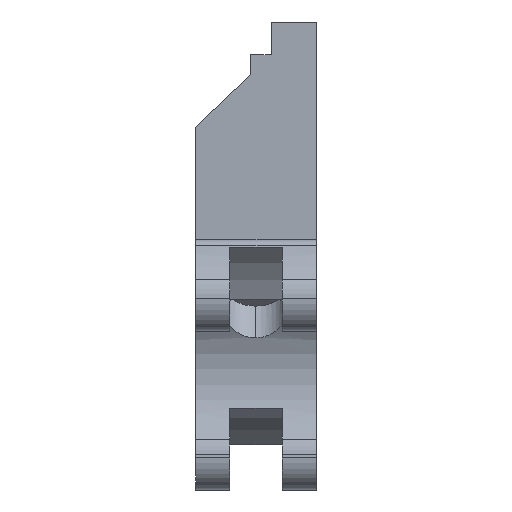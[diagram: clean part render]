
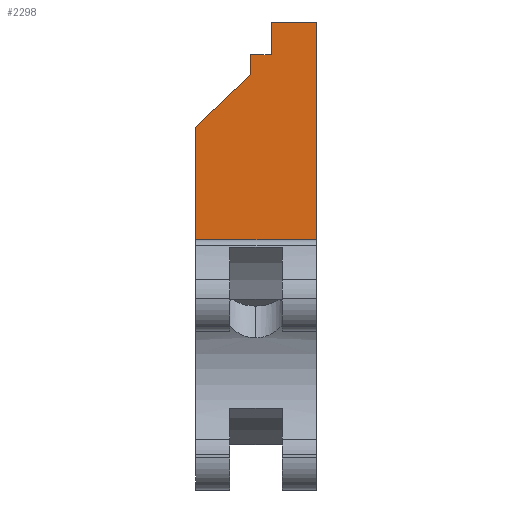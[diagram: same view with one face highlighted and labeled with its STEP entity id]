
A CAD part, top view. The second image highlights one B-rep face of the part: STEP entity #2298.
In plain terms, the highlighted planar face has unit normal (0, 0, 1).
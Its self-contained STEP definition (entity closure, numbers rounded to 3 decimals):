
#3 = EDGE_CURVE ( 'NONE', #1756, #1101, #990, .T. ) ;
#48 = EDGE_LOOP ( 'NONE', ( #485, #366, #2471, #2859, #1770, #1580, #1848, #1701 ) ) ;
#62 = EDGE_CURVE ( 'NONE', #1055, #2774, #1856, .T. ) ;
#70 = EDGE_CURVE ( 'NONE', #202, #3067, #795, .T. ) ;
#83 = VECTOR ( 'NONE', #2009, 1000. ) ;
#202 = VERTEX_POINT ( 'NONE', #1638 ) ;
#366 = ORIENTED_EDGE ( 'NONE', *, *, #1916, .T. ) ;
#382 = AXIS2_PLACEMENT_3D ( 'NONE', #2336, #598, #2065 ) ;
#485 = ORIENTED_EDGE ( 'NONE', *, *, #3185, .T. ) ;
#498 = DIRECTION ( 'NONE',  ( -1., 0., 0. ) ) ;
#534 = CARTESIAN_POINT ( 'NONE',  ( -473.279, 139.457, -248.147 ) ) ;
#592 = VERTEX_POINT ( 'NONE', #1681 ) ;
#598 = DIRECTION ( 'NONE',  ( 0., 0., -1. ) ) ;
#624 = LINE ( 'NONE', #2827, #716 ) ;
#716 = VECTOR ( 'NONE', #3184, 1000. ) ;
#747 = EDGE_CURVE ( 'NONE', #3067, #1756, #2990, .T. ) ;
#770 = DIRECTION ( 'NONE',  ( 0., -1., 0. ) ) ;
#795 = LINE ( 'NONE', #2035, #917 ) ;
#917 = VECTOR ( 'NONE', #2568, 1000. ) ;
#990 = LINE ( 'NONE', #534, #1441 ) ;
#1055 = VERTEX_POINT ( 'NONE', #1811 ) ;
#1064 = FACE_OUTER_BOUND ( 'NONE', #48, .T. ) ;
#1075 = CARTESIAN_POINT ( 'NONE',  ( -334.3, -1.302, -248.147 ) ) ;
#1101 = VERTEX_POINT ( 'NONE', #2084 ) ;
#1178 = DIRECTION ( 'NONE',  ( 0., -1., 0. ) ) ;
#1234 = VECTOR ( 'NONE', #770, 1000. ) ;
#1441 = VECTOR ( 'NONE', #498, 1000. ) ;
#1484 = CARTESIAN_POINT ( 'NONE',  ( -426.3, 84.462, -248.147 ) ) ;
#1580 = ORIENTED_EDGE ( 'NONE', *, *, #3, .T. ) ;
#1588 = CARTESIAN_POINT ( 'NONE',  ( -445.324, 66.435, -248.147 ) ) ;
#1638 = CARTESIAN_POINT ( 'NONE',  ( -334.3, 164.418, -248.147 ) ) ;
#1681 = CARTESIAN_POINT ( 'NONE',  ( -426.3, -1.302, -248.147 ) ) ;
#1692 = CARTESIAN_POINT ( 'NONE',  ( -384.3, 92.723, -248.147 ) ) ;
#1701 = ORIENTED_EDGE ( 'NONE', *, *, #62, .T. ) ;
#1756 = VERTEX_POINT ( 'NONE', #2562 ) ;
#1770 = ORIENTED_EDGE ( 'NONE', *, *, #747, .T. ) ;
#1774 = VECTOR ( 'NONE', #1178, 1000. ) ;
#1811 = CARTESIAN_POINT ( 'NONE',  ( -384.3, 124.26, -248.147 ) ) ;
#1848 = ORIENTED_EDGE ( 'NONE', *, *, #1867, .T. ) ;
#1856 = LINE ( 'NONE', #1588, #2214 ) ;
#1867 = EDGE_CURVE ( 'NONE', #1101, #1055, #2861, .T. ) ;
#1916 = EDGE_CURVE ( 'NONE', #592, #3172, #624, .T. ) ;
#2009 = DIRECTION ( 'NONE',  ( 0., -1., 0. ) ) ;
#2035 = CARTESIAN_POINT ( 'NONE',  ( -151.305, 164.418, -248.147 ) ) ;
#2065 = DIRECTION ( 'NONE',  ( -1., 0., 0. ) ) ;
#2077 = LINE ( 'NONE', #3068, #1774 ) ;
#2084 = CARTESIAN_POINT ( 'NONE',  ( -384.3, 139.457, -248.147 ) ) ;
#2214 = VECTOR ( 'NONE', #2540, 1000. ) ;
#2240 = LINE ( 'NONE', #2776, #83 ) ;
#2298 = ADVANCED_FACE ( 'NONE', ( #1064 ), #3087, .F. ) ;
#2336 = CARTESIAN_POINT ( 'NONE',  ( -477.118, 100.038, -248.147 ) ) ;
#2471 = ORIENTED_EDGE ( 'NONE', *, *, #2711, .F. ) ;
#2491 = CARTESIAN_POINT ( 'NONE',  ( -368.8, 164.418, -248.147 ) ) ;
#2540 = DIRECTION ( 'NONE',  ( -0.726, -0.688, 0. ) ) ;
#2562 = CARTESIAN_POINT ( 'NONE',  ( -368.8, 139.457, -248.147 ) ) ;
#2568 = DIRECTION ( 'NONE',  ( -1., 0., 0. ) ) ;
#2672 = DIRECTION ( 'NONE',  ( 0., -1., 0. ) ) ;
#2711 = EDGE_CURVE ( 'NONE', #202, #3172, #2240, .T. ) ;
#2774 = VERTEX_POINT ( 'NONE', #1484 ) ;
#2776 = CARTESIAN_POINT ( 'NONE',  ( -334.3, 0., -248.147 ) ) ;
#2827 = CARTESIAN_POINT ( 'NONE',  ( -334.8, -1.302, -248.147 ) ) ;
#2859 = ORIENTED_EDGE ( 'NONE', *, *, #70, .T. ) ;
#2861 = LINE ( 'NONE', #1692, #3104 ) ;
#2990 = LINE ( 'NONE', #3204, #1234 ) ;
#3067 = VERTEX_POINT ( 'NONE', #2491 ) ;
#3068 = CARTESIAN_POINT ( 'NONE',  ( -426.3, 100.038, -248.147 ) ) ;
#3087 = PLANE ( 'NONE',  #382 ) ;
#3104 = VECTOR ( 'NONE', #2672, 1000. ) ;
#3172 = VERTEX_POINT ( 'NONE', #1075 ) ;
#3184 = DIRECTION ( 'NONE',  ( 1., 0., 0. ) ) ;
#3185 = EDGE_CURVE ( 'NONE', #2774, #592, #2077, .T. ) ;
#3204 = CARTESIAN_POINT ( 'NONE',  ( -368.8, 140.503, -248.147 ) ) ;
